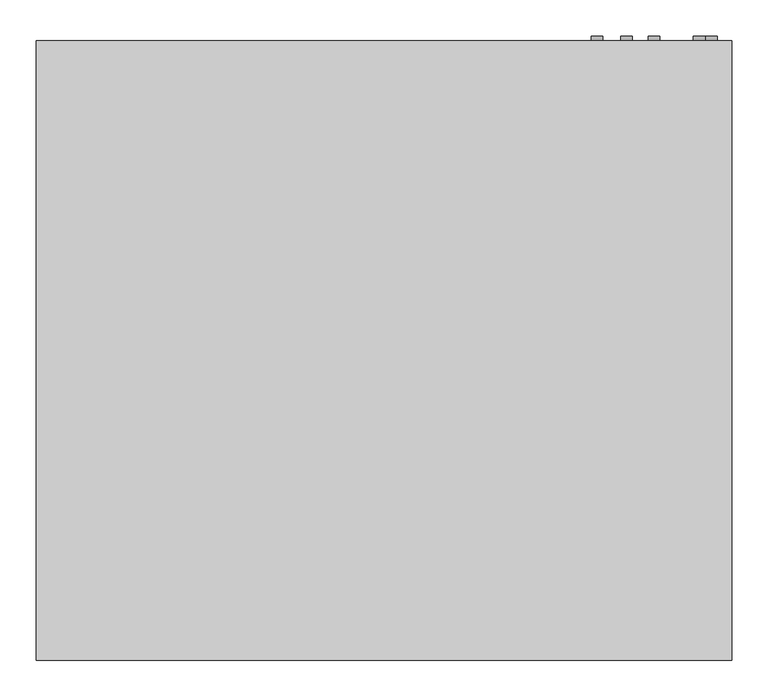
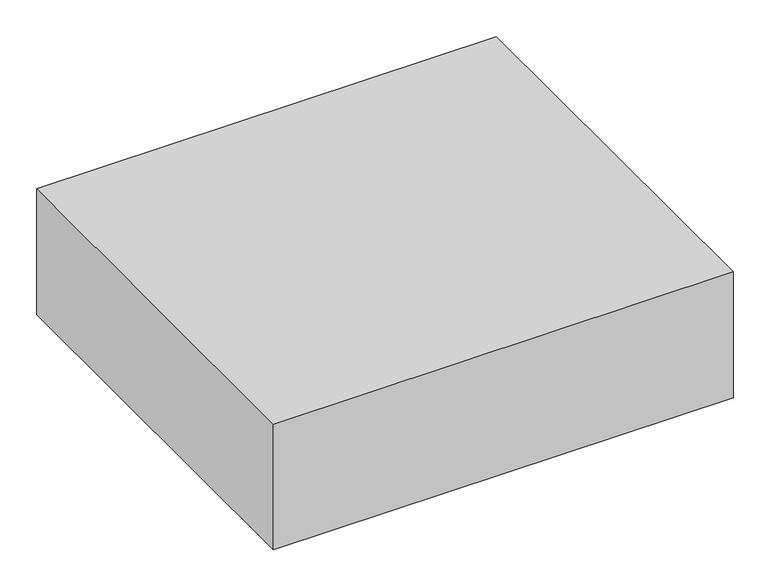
"""IFC4 building model written with IfcOpenShell, lengths in millimetres: proxy geometry, Exposed_Horizontal_Fan_Coil_Unit_-_42CGB_-_CARRIER_-_4-Pipe_BS-BR_RH_2022 : Size 02 - 277v/60Hz/1Ph - 4/1 Coil."""

from ifc_helpers import new_model, si_unit, point, frame, frame_2d, origin, place, context, project, spatial, polyline, circle_curve, trimmed, segment, composite_curve, outline, extrude, source, transform, mapped, element, save


def mechanical_equipment_b571c7ca(model_context):
    return source(origin(), model_context, "Body", "SweptSolid", [
        extrude(outline(polyline([(369.8875, -439.7375), (369.8875, -585.7875), (-65.0875, -585.7875), (-65.0875, -439.7375), (369.8875, -439.7375)])), frame((0.0, 0.0, -285.75), z_axis=(0.0, 0.0, 1.0), x_axis=(1.0, 0.0, 0.0)), (0.0, 0.0, 1.0), 6.35),
        extrude(outline(composite_curve([segment(trimmed(circle_curve(frame_2d((-85.725, 606.425)), 7.9375), [point((-85.725, 614.3625))], [point((-85.725, 598.4875))], False, "CARTESIAN"), True, "CONTINUOUS"), segment(trimmed(circle_curve(frame_2d((-85.725, 606.425)), 7.9375), [point((-85.725, 598.4875))], [point((-85.725, 614.3625))], False, "CARTESIAN"), True, "CONTINUOUS")], self_intersect=False)), frame((0.0, 192.0875, 0.0), z_axis=(0.0, 1.0, 0.0), x_axis=(0.0, 0.0, 1.0)), (0.0, 0.0, 1.0), 6.35),
        extrude(outline(composite_curve([segment(trimmed(circle_curve(frame_2d((-44.45, 527.05)), 7.9375), [point((-44.45, 534.9875))], [point((-44.45, 519.1125))], False, "CARTESIAN"), True, "CONTINUOUS"), segment(trimmed(circle_curve(frame_2d((-44.45, 527.05)), 7.9375), [point((-44.45, 519.1125))], [point((-44.45, 534.9875))], False, "CARTESIAN"), True, "CONTINUOUS")], self_intersect=False)), frame((0.0, 192.0875, 0.0), z_axis=(0.0, 1.0, 0.0), x_axis=(0.0, 0.0, 1.0)), (0.0, 0.0, 1.0), 6.35),
        extrude(outline(composite_curve([segment(trimmed(circle_curve(frame_2d((-95.25, 488.95)), 7.9375), [point((-95.25, 496.8875))], [point((-95.25, 481.0125))], False, "CARTESIAN"), True, "CONTINUOUS"), segment(trimmed(circle_curve(frame_2d((-95.25, 488.95)), 7.9375), [point((-95.25, 481.0125))], [point((-95.25, 496.8875))], False, "CARTESIAN"), True, "CONTINUOUS")], self_intersect=False)), frame((0.0, 192.0875, 0.0), z_axis=(0.0, 1.0, 0.0), x_axis=(0.0, 0.0, 1.0)), (0.0, 0.0, 1.0), 6.35),
        extrude(outline(composite_curve([segment(trimmed(circle_curve(frame_2d((-60.325, 447.675)), 7.9375), [point((-60.325, 455.6125))], [point((-60.325, 439.7375))], False, "CARTESIAN"), True, "CONTINUOUS"), segment(trimmed(circle_curve(frame_2d((-60.325, 447.675)), 7.9375), [point((-60.325, 439.7375))], [point((-60.325, 455.6125))], False, "CARTESIAN"), True, "CONTINUOUS")], self_intersect=False)), frame((0.0, 192.0875, 0.0), z_axis=(0.0, 1.0, 0.0), x_axis=(0.0, 0.0, 1.0)), (0.0, 0.0, 1.0), 6.35),
        extrude(outline(composite_curve([segment(trimmed(circle_curve(frame_2d((-260.35, 590.55)), 9.525), [point((-260.35, 600.075))], [point((-260.35, 581.025))], False, "CARTESIAN"), True, "CONTINUOUS"), segment(trimmed(circle_curve(frame_2d((-260.35, 590.55)), 9.525), [point((-260.35, 581.025))], [point((-260.35, 600.075))], False, "CARTESIAN"), True, "CONTINUOUS")], self_intersect=False)), frame((0.0, 192.0875, 0.0), z_axis=(0.0, 1.0, 0.0), x_axis=(0.0, 0.0, 1.0)), (0.0, 0.0, 1.0), 6.35),
        extrude(outline(polyline([(-330.2, 192.0875), (635.0, 192.0875), (635.0, -668.3375), (-330.2, -668.3375), (-330.2, 192.0875)])), frame((0.0, 0.0, -279.4), z_axis=(0.0, 0.0, 1.0), x_axis=(1.0, 0.0, 0.0)), (0.0, 0.0, 1.0), 279.4),
        extrude(outline(polyline([(450.85, 115.8875), (450.85, -138.1125), (-146.05, -138.1125), (-146.05, 115.8875), (450.85, 115.8875)])), frame((0.0, 0.0, -285.75), z_axis=(0.0, 0.0, 1.0), x_axis=(1.0, 0.0, 0.0)), (0.0, 0.0, 1.0), 6.35),
    ])


if __name__ == "__main__":
    model = new_model("IFC4")
    model_context = context("Model", 3, world=origin())
    ifc_project = project(units=[si_unit("LENGTHUNIT", "METRE", prefix="MILLI")], contexts=[model_context])
    site = spatial("IfcSite", under=ifc_project)
    building = spatial("IfcBuilding", under=site)
    placement = place(None, origin())
    mechanical_equipment_shape = mechanical_equipment_b571c7ca(model_context)
    element("IfcBuildingElementProxy", 1, Name="Exposed_Horizontal_Fan_Coil_Unit_-_42CGB_-_CARRIER_-_4-Pipe_BS-BR_RH_2022 : Size 02 - 277v/60Hz/1Ph - 4/1 Coil", ObjectType="Exposed_Horizontal_Fan_Coil_Unit_-_42CGB_-_CARRIER_-_4-Pipe_BS-BR_RH_2022 : Size 02 - 277v/60Hz/1Ph - 4/1 Coil", at=placement, inside=building, context=model_context, shape_type="MappedRepresentation", body=[
        mapped(mechanical_equipment_shape, transform((0.0, 0.0, 0.0), x_axis=(1.0, 0.0, 0.0), y_axis=(0.0, 1.0, 0.0), z_axis=(0.0, 0.0, 1.0))),
    ])
    save(model, "model.ifc")
